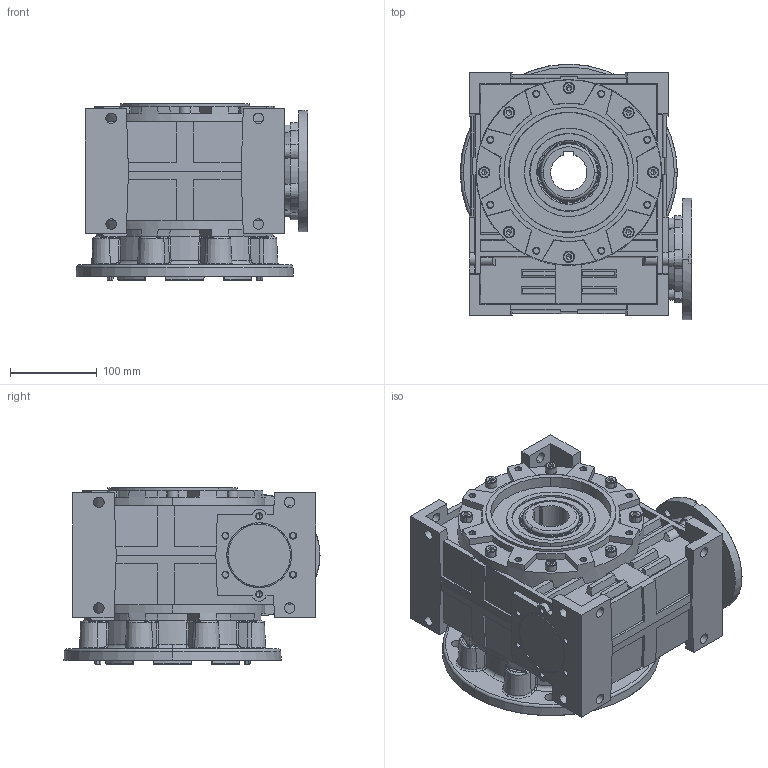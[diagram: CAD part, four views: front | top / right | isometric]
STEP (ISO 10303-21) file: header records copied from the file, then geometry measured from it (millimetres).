
FILE_DESCRIPTION (( 'STEP AP203' ), '1' );
FILE_NAME ('MR-100_140-24-K250_1-3D.STEP', '2023-09-29T07:04:22', ( '' ), ( '' ), 'SwSTEP 2.0', 'SolidWorks 2022', '' );
FILE_SCHEMA (( 'CONFIG_CONTROL_DESIGN' ));
Products named in the file (1): MR-100_140-24-K250_1-3D
Bounding box: 267.35 x 295.57 x 204 mm (x, y, z)
Volume: 8173547.9 mm3; surface area: 571030.6 mm2
Topology: 1 solids, 33 shells, 2299 faces, 5700 edges, 3501 vertices
Faces by surface type: plane 880, cone 423, cylinder 380, bspline 368, torus 248
Entity records: 81748 total; most frequent: CARTESIAN_POINT 29569, ORIENTED_EDGE 11260, DIRECTION 10530, EDGE_CURVE 5630, AXIS2_PLACEMENT_3D 4187, VERTEX_POINT 3501, EDGE_LOOP 2481, FACE_OUTER_BOUND 2299
